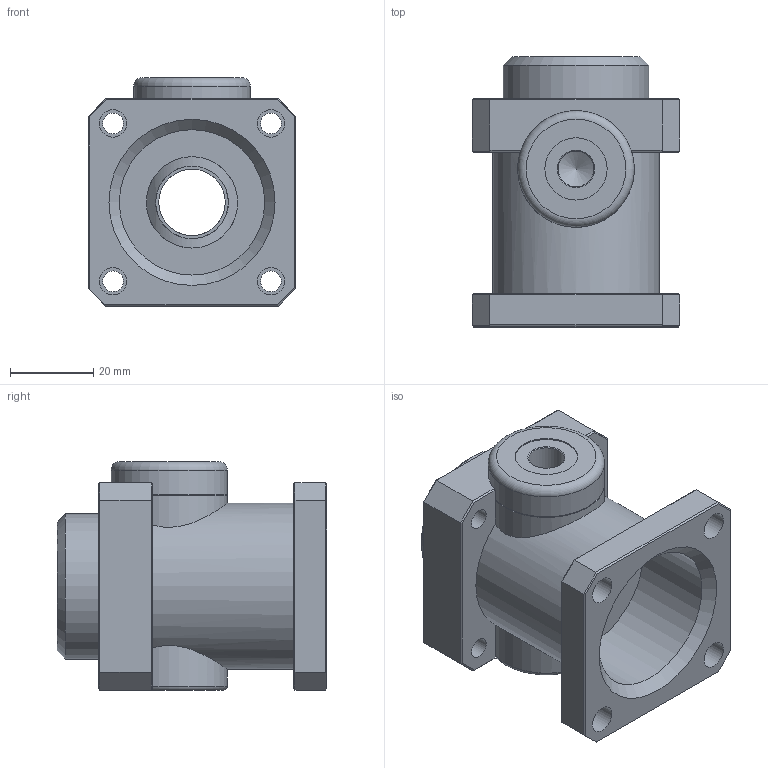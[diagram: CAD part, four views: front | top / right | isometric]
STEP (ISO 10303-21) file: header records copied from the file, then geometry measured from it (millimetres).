
FILE_DESCRIPTION(('STEP AP242'),'1');
FILE_NAME('V.5016 + MV.5040 Feststellpatrone mit Zylinderaufnahme.stp','2026-07-01T13:22:47',(' '),(' '),'Spatial InterOp 3D',' ',' ');
FILE_SCHEMA(('AP242_MANAGED_MODEL_BASED_3D_ENGINEERING_MIM_LF {1 0 10303 442 1 1 4}'));
Length unit declared in the file: millimetre
Products named in the file (3): V.5016 + MV.5040 Feststellpatrone mit Zylinderaufnahme; MV.5040.01; V.5016 Feststellpatrone
Assembly tree (2 placements, depth 2):
  V.5016 + MV.5040 Feststellpatrone mit Zylinderaufnahme
    MV.5040.01
    V.5016 Feststellpatrone
Bounding box: 50 x 65 x 55 mm (x, y, z)
Volume: 77703.7 mm3; surface area: 28593.6 mm2
Topology: 2 solids, 2 shells, 92 faces, 224 edges, 140 vertices
Faces by surface type: plane 61, cylinder 22, cone 7, torus 2
Full cylindrical faces by diameter (mm): 5 x4, 6.6 x4, 8.566 x2, 15 x1, 16 x2, 17.5 x2, 22 x1, 28 x2, 28.1 x1, 35 x2, 40 x1
Entity records: 3916 total; most frequent: CARTESIAN_POINT 898, DIRECTION 415, ORIENTED_EDGE 360, EDGE_CURVE 180, EDGE_LOOP 151, AXIS2_PLACEMENT_3D 146, VERTEX_POINT 128, LINE 123
